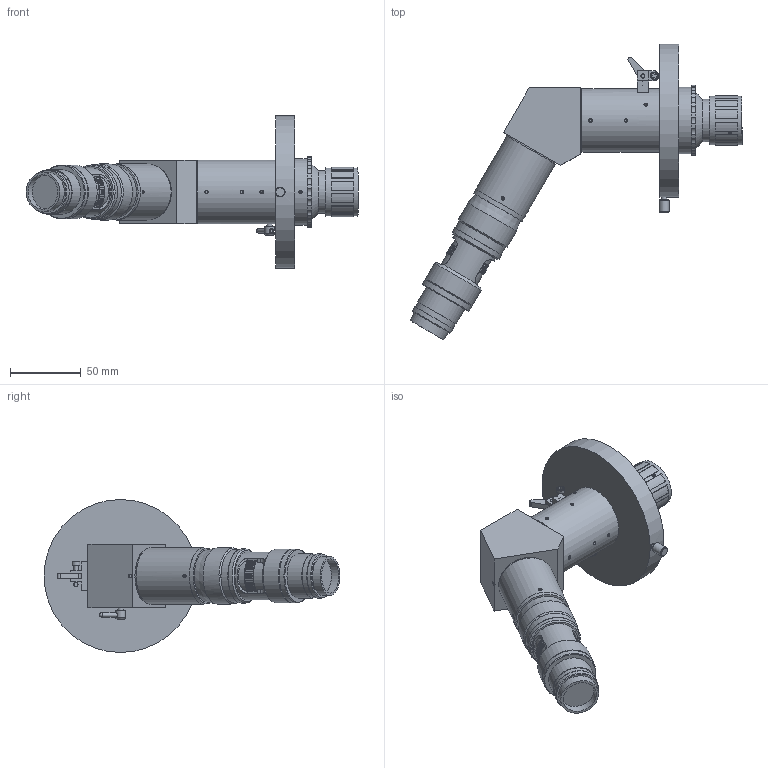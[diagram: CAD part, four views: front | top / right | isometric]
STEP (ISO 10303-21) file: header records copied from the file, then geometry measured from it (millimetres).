
FILE_DESCRIPTION(/* description */ (''),/* implementation_level */ '2;1');
FILE_NAME(/* name */ 'S:\Bureau-Technique\Microscope\MA 130GW-Z-014.stp',/* time_stamp */ '2017-04-21T11:39:33+02:00',/* author */ ('ms'),/* organization */ ('Marcel Aubert'),/* preprocessor_version */ 'ST-DEVELOPER v16.5',/* originating_system */ 'Autodesk Inventor 2017',/* authorisation */ '');
FILE_SCHEMA (('AUTOMOTIVE_DESIGN { 1 0 10303 214 3 1 1 }'));
Products named in the file (1): Pièce1
Bounding box: 234.4 x 208.9 x 108 mm (x, y, z)
Volume: 387079.9 mm3; surface area: 123429.8 mm2
Topology: 3 solids, 49 shells, 2961 faces, 7137 edges, 4736 vertices
Faces by surface type: plane 2101, cylinder 727, cone 100, torus 15, sphere 15, bspline 3
Full cylindrical faces by diameter (mm): 1.567 x1, 1.75 x1, 2.013 x3, 2.2 x4, 2.459 x29, 2.693 x3, 3 x15, 3.2 x5, 3.242 x5, 3.3 x1, 4 x6, 5 x2, 5.2 x2, 5.5 x1, 6 x3, 7 x2, 14 x2, 14.2 x1, 15 x2, 16 x1, 16.4 x1, 17 x2, 18 x4, 19 x5, 19.5 x1, 20 x1, 21 x6, 21.4 x1, 22 x5, 22.459 x1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
Entity records: 88486 total; most frequent: CARTESIAN_POINT 16896, DIRECTION 14005, ORIENTED_EDGE 13486, EDGE_CURVE 6730, LINE 4873, VECTOR 4873, VERTEX_POINT 4606, AXIS2_PLACEMENT_3D 4566
